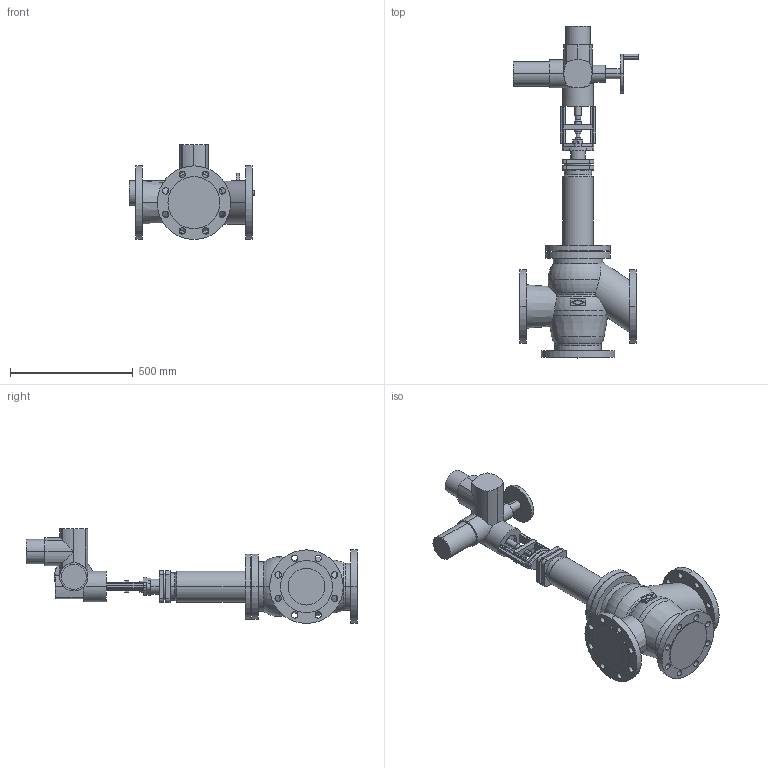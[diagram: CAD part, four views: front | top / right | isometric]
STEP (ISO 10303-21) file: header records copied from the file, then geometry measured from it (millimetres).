
FILE_DESCRIPTION(('OneSpaceDesigner STEP Export'),'2;1');
FILE_NAME('c000003225.stp','2007-01-25T12:07:55',(''),(''),'OneSpace Designer STEP processor for AP214 (Solid Model)','OneSpace Designer 14.00B 27-May-2006 (C) CoCreate Software GmbH','');
FILE_SCHEMA(('AUTOMOTIVE_DESIGN { 1 0 10303 214 1 1 1 1 }'));
Length unit declared in the file: millimetre
Products named in the file (2): 1; 2
Bounding box: 514 x 1354.2 x 387 mm (x, y, z)
Volume: 42126787.7 mm3; surface area: 1615032.5 mm2
Topology: 2 solids, 2 shells, 361 faces, 922 edges, 588 vertices
Faces by surface type: cylinder 176, plane 159, torus 16, cone 10
Entity records: 10449 total; most frequent: CARTESIAN_POINT 2244, ORIENTED_EDGE 1844, DIRECTION 1526, EDGE_CURVE 922, VERTEX_POINT 588, AXIS2_PLACEMENT_3D 530, VECTOR 466, LINE 466
